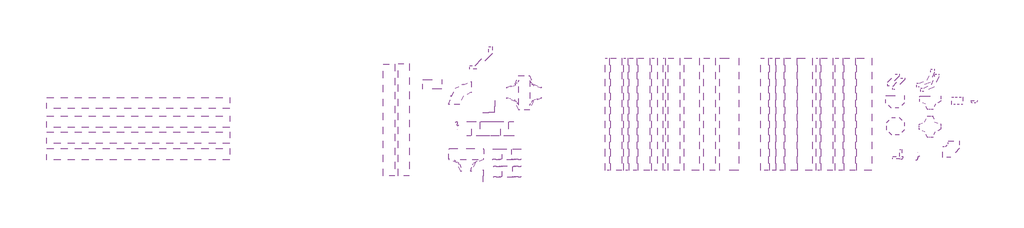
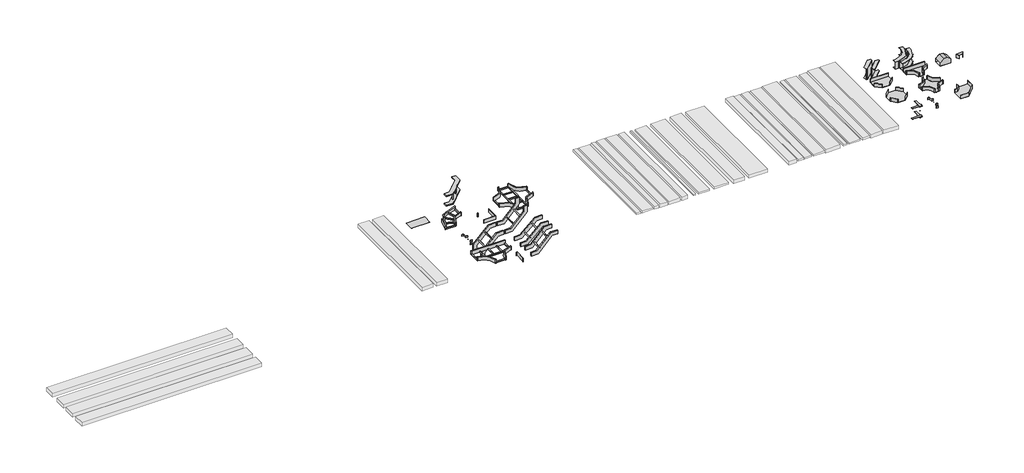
# One storey: 33 cable carrier fittings, 27 cable carrier segments.
"""IFC4 building model written with IfcOpenShell, lengths in millimetres."""

from ifc_helpers import new_model, si_unit, frame, origin, place, context, project, spatial, polyline, outline, extrude, transform, mapped, element, save
from components import r300_sz_0848be47, r300_sz_aaf5c616, r300_sz_23be3219, sz_9244dd85, sz_ec6d16ca, sz_e15724c8, sz_65a5ffdf, sz_d73c2f54, sz_04c1168c, sz_c7358d7a, sz_7c2b690c, sz_991a64d1, sz_2e9c0341, sz_de6e191f, sz_1be927fd, sz_bbab0c20, sz_2abae99f, sz_76e921f6, sz_96013533, sz_b1535532, sz_65b4f98e, sz_a71fa306, sz_ec360602, sz_a67ddfbb, sz_49492b6d, sz_73ba9979

model = new_model("IFC4")

# Units and contexts
model_context = context("Model", 3, world=origin())
ifc_project = project(units=[si_unit("LENGTHUNIT", "METRE", prefix="MILLI")], contexts=[model_context])

# Site, building, storey
site = spatial("IfcSite", under=ifc_project)
building = spatial("IfcBuilding", under=site)
storey = spatial("IfcBuildingStorey", under=building, Name="Этаж 01", Elevation=0.0)

# Cable carrier fittings
placement = place(None, origin())
r300_sz_shape = r300_sz_0848be47(model_context)
element("IfcCableCarrierFitting", 1, ObjectType="IEK_Лестничный_Поворот : R300_SZ", at=placement, inside=storey, context=model_context, shape_type="MappedRepresentation", body=[
    mapped(r300_sz_shape, transform((-4142.1974601, 2706.3520257, 3000.0), x_axis=(-1.0, 0.0, 0.0), y_axis=(0.0, -1.0, 0.0), z_axis=(0.0, 0.0, 1.0))),
])
r300_sz_2_shape = r300_sz_aaf5c616(model_context)
element("IfcCableCarrierFitting", 2, ObjectType="IEK_Лестничный_Крестовина : R300_SZ", at=placement, inside=storey, context=model_context, shape_type="MappedRepresentation", body=[
    mapped(r300_sz_2_shape, transform((-2269.1668232, 2558.303797, 3000.0), x_axis=(0.0, -1.0, 0.0), y_axis=(1.0, 0.0, 0.0), z_axis=(0.0, 0.0, 1.0))),
])
r300_sz_3_shape = r300_sz_23be3219(model_context)
element("IfcCableCarrierFitting", 3, ObjectType="IEK_Лестничный_Разветвитель Т-обр : R300_SZ", at=placement, inside=storey, context=model_context, shape_type="MappedRepresentation", body=[
    mapped(r300_sz_3_shape, transform((-3819.8459974, 911.1303241, 3000.0), x_axis=(1.0, 0.0, 0.0), y_axis=(0.0, 1.0, 0.0), z_axis=(0.0, 0.0, 1.0))),
])
sz_shape = sz_9244dd85(model_context)
element("IfcCableCarrierFitting", 4, ObjectType="IEK_Листовой_Поворот вертик наруж : SZ", at=placement, inside=storey, context=model_context, shape_type="MappedRepresentation", body=[
    mapped(sz_shape, transform((7861.5572148, 2690.1447929, 3000.0), x_axis=(1.0, 0.0, 0.0), y_axis=(0.0, 1.0, 0.0), z_axis=(0.0, 0.0, 1.0))),
])
sz_2_shape = sz_ec6d16ca(model_context)
element("IfcCableCarrierFitting", 5, ObjectType="IEK_Листовой_Поворот плавный вертик внутр : SZ", at=placement, inside=storey, context=model_context, shape_type="MappedRepresentation", body=[
    mapped(sz_2_shape, transform((8659.7054682, 2762.5588337, 3000.0), x_axis=(1.0, 0.0, 0.0), y_axis=(0.0, 1.0, 0.0), z_axis=(0.0, 0.0, 1.0))),
])
sz_3_shape = sz_e15724c8(model_context)
element("IfcCableCarrierFitting", 6, ObjectType="IEK_Листовой_Поворот плавный вертик наруж : SZ", at=placement, inside=storey, context=model_context, shape_type="MappedRepresentation", body=[
    mapped(sz_3_shape, transform((8771.9458158, 2639.2057526, 3000.0), x_axis=(1.0, 0.0, 0.0), y_axis=(0.0, 1.0, 0.0), z_axis=(0.0, 0.0, 1.0))),
])
sz_4_shape = sz_65a5ffdf(model_context)
element("IfcCableCarrierFitting", 7, ObjectType="IEK_Листовой_Крестовина : SZ", at=placement, inside=storey, context=model_context, shape_type="MappedRepresentation", body=[
    mapped(sz_4_shape, transform((7668.0828173, 1659.6644888, 3000.0), x_axis=(1.0, 0.0, 0.0), y_axis=(0.0, 1.0, 0.0), z_axis=(0.0, 0.0, 1.0))),
])
sz_5_shape = sz_d73c2f54(model_context)
element("IfcCableCarrierFitting", 8, ObjectType="IEK_Листовой_Крестовина плавная : SZ", at=placement, inside=storey, context=model_context, shape_type="MappedRepresentation", body=[
    mapped(sz_5_shape, transform((8591.1179231, 1642.8294687, 3000.0), x_axis=(1.0, 0.0, 0.0), y_axis=(0.0, 1.0, 0.0), z_axis=(0.0, 0.0, 1.0))),
])
sz_6_shape = sz_04c1168c(model_context)
element("IfcCableCarrierFitting", 9, ObjectType="IEK_Листовой_Отвод Т-обр : SZ", at=placement, inside=storey, context=model_context, shape_type="MappedRepresentation", body=[
    mapped(sz_6_shape, transform((9771.9242096, 2400.0627874, 3000.0), x_axis=(1.0, 0.0, 0.0), y_axis=(0.0, 1.0, 0.0), z_axis=(0.0, 0.0, 1.0))),
])
sz_7_shape = sz_c7358d7a(model_context)
element("IfcCableCarrierFitting", 10, ObjectType="IEK_Листовой_Разветвитель Т-обр : SZ", at=placement, inside=storey, context=model_context, shape_type="MappedRepresentation", body=[
    mapped(sz_7_shape, transform((7658.5414114, 2380.6262282, 3000.0), x_axis=(1.0, 0.0, 0.0), y_axis=(0.0, 1.0, 0.0), z_axis=(0.0, 0.0, 1.0))),
])
sz_8_shape = sz_7c2b690c(model_context)
element("IfcCableCarrierFitting", 11, ObjectType="IEK_Листовой_Разветвитель Т-обр плавный : SZ", at=placement, inside=storey, context=model_context, shape_type="MappedRepresentation", body=[
    mapped(sz_8_shape, transform((8596.6005413, 2392.6655468, 3000.0), x_axis=(1.0, 0.0, 0.0), y_axis=(0.0, 1.0, 0.0), z_axis=(0.0, 0.0, 1.0))),
])
sz_9_shape = sz_991a64d1(model_context)
element("IfcCableCarrierFitting", 12, ObjectType="IEK_Листовой_Поворот вертик внутр : SZ", at=placement, inside=storey, context=model_context, shape_type="MappedRepresentation", body=[
    mapped(sz_9_shape, transform((7716.5285569, 2792.4110519, 3000.0), x_axis=(1.0, 0.0, 0.0), y_axis=(0.0, 1.0, 0.0), z_axis=(0.0, 0.0, 1.0))),
])
sz_10_shape = sz_2e9c0341(model_context)
element("IfcCableCarrierFitting", 13, ObjectType="IEK_Лестничный_Вставка донная : SZ", at=placement, inside=storey, context=model_context, shape_type="MappedRepresentation", body=[
    mapped(sz_10_shape, transform((-4979.665342, 2786.0677266, 3000.0), x_axis=(1.0, 0.0, 0.0), y_axis=(0.0, 1.0, 0.0), z_axis=(0.0, 0.0, 1.0))),
])
sz_11_shape = sz_de6e191f(model_context)
element("IfcCableCarrierFitting", 14, ObjectType="IEK_Лестничный_Поворот шарнирный вертик внешн : SZ", at=placement, inside=storey, context=model_context, shape_type="MappedRepresentation", body=[
    mapped(sz_11_shape, transform((-3761.6351111, 1592.4969429, 3000.0), x_axis=(0.0, 0.0, 1.0), y_axis=(1.0, 0.0, 0.0), z_axis=(0.0, 1.0, 0.0))),
])
sz_12_shape = sz_1be927fd(model_context)
element("IfcCableCarrierFitting", 15, ObjectType="IEK_Лестничный_Поворот шарнирный вертик внутр : SZ", at=placement, inside=storey, context=model_context, shape_type="MappedRepresentation", body=[
    mapped(sz_12_shape, transform((-2601.6351111, 1592.4969429, 3000.0), x_axis=(1.0, 0.0, 0.0), y_axis=(0.0, 0.0, 1.0), z_axis=(0.0, -1.0, 0.0))),
])
sz_13_shape = sz_bbab0c20(model_context)
element("IfcCableCarrierFitting", 16, ObjectType="IEK_Листовой_Разветвитель Т-обр вверх : SZ", at=placement, inside=storey, context=model_context, shape_type="MappedRepresentation", body=[
    mapped(sz_13_shape, transform((9326.8033831, 2337.5755409, 3000.0), x_axis=(1.0, 0.0, 0.0), y_axis=(0.0, 1.0, 0.0), z_axis=(0.0, 0.0, 1.0))),
])
sz_14_shape = sz_2abae99f(model_context)
element("IfcCableCarrierFitting", 17, ObjectType="IEK_Лестничный_Поворот шарнирный вертик : SZ", at=placement, inside=storey, context=model_context, shape_type="MappedRepresentation", body=[
    mapped(sz_14_shape, transform((-3169.0486686, 3240.4012082, 3000.0), x_axis=(1.0, 0.0, 0.0), y_axis=(0.0, 1.0, 0.0), z_axis=(0.0, 0.0, 1.0))),
])
sz_15_shape = sz_76e921f6(model_context)
element("IfcCableCarrierFitting", 18, ObjectType="IEK_Лестничный_Поворот шарнирный : SZ", at=placement, inside=storey, context=model_context, shape_type="MappedRepresentation", body=[
    mapped(sz_15_shape, transform((-2933.8383396, 905.8059734, 3000.0), x_axis=(1.0, 0.0, 0.0), y_axis=(0.0, 1.0, 0.0), z_axis=(0.0, 0.0, 1.0))),
])
sz_16_shape = sz_96013533(model_context)
element("IfcCableCarrierFitting", 19, ObjectType="IEK_Лестничный_Поворот шарнирный_(угол) : SZ", at=placement, inside=storey, context=model_context, shape_type="MappedRepresentation", body=[
    mapped(sz_16_shape, transform((-2916.5199929, 443.9833958, 3000.0), x_axis=(1.0, 0.0, 0.0), y_axis=(0.0, 1.0, 0.0), z_axis=(0.0, 0.0, 1.0))),
])
sz_17_shape = sz_b1535532(model_context)
element("IfcCableCarrierFitting", 20, ObjectType="IEK_Лестничный_Заглушка : SZ", at=placement, inside=storey, context=model_context, shape_type="MappedRepresentation", body=[
    mapped(sz_17_shape, transform((-3360.039022, 332.893144, 3000.0), x_axis=(1.0, 0.0, 0.0), y_axis=(0.0, 1.0, 0.0), z_axis=(0.0, 0.0, 1.0))),
])
sz_18_shape = sz_65b4f98e(model_context)
element("IfcCableCarrierFitting", 21, ObjectType="⚠_IEK_Лестничный_Редукция : SZ", at=placement, inside=storey, context=model_context, shape_type="MappedRepresentation", body=[
    mapped(sz_18_shape, transform((-4065.0528235, 1574.5225947, 3000.0), x_axis=(0.0, 1.0, 0.0), y_axis=(-1.0, 0.0, 0.0), z_axis=(0.0, 0.0, 1.0))),
])
element("IfcCableCarrierFitting", 22, ObjectType="⚠_IEK_Лестничный_Редукция : SZ", at=placement, inside=storey, context=model_context, shape_type="MappedRepresentation", body=[
    mapped(sz_18_shape, transform((-4065.0528235, 1573.3225947, 3000.0), x_axis=(0.0, 1.0, 0.0), y_axis=(-1.0, 0.0, 0.0), z_axis=(0.0, 0.0, 1.0))),
])
sz_19_shape = sz_a71fa306(model_context)
element("IfcCableCarrierFitting", 23, ObjectType="IEK_Лестничный_Переход по ширине : SZ", at=placement, inside=storey, context=model_context, shape_type="MappedRepresentation", body=[
    mapped(sz_19_shape, transform((-4065.2528235, 1575.1364842, 3000.0), x_axis=(1.0, 0.0, 0.0), y_axis=(0.0, 1.0, 0.0), z_axis=(0.0, 0.0, 1.0))),
])
sz_20_shape = sz_ec360602(model_context)
element("IfcCableCarrierFitting", 24, ObjectType="IEK_Лестничный_Регулируемый поворот : SZ", at=placement, inside=storey, context=model_context, shape_type="MappedRepresentation", body=[
    mapped(sz_20_shape, transform((-3206.5108306, 2175.3572031, 3000.0), x_axis=(1.0, 0.0, 0.0), y_axis=(0.0, 1.0, 0.0), z_axis=(0.0, 0.0, 1.0))),
])
element("IfcCableCarrierFitting", 25, ObjectType="⚠_IEK_Листовой_Редукция : SZ", at=placement, inside=storey, context=model_context, shape_type="MappedRepresentation", body=[
    mapped(sz_18_shape, transform((8266.3686057, 953.2180441, 3000.0), x_axis=(0.0, 1.0, 0.0), y_axis=(-1.0, 0.0, 0.0), z_axis=(0.0, 0.0, 1.0))),
])
element("IfcCableCarrierFitting", 26, ObjectType="⚠_IEK_Листовой_Редукция : SZ", at=placement, inside=storey, context=model_context, shape_type="MappedRepresentation", body=[
    mapped(sz_18_shape, transform((8266.3686057, 952.0180441, 3000.0), x_axis=(0.0, 1.0, 0.0), y_axis=(-1.0, 0.0, 0.0), z_axis=(0.0, 0.0, 1.0))),
])
element("IfcCableCarrierFitting", 27, ObjectType="IEK_Листовой_Переход по ширине : SZ", at=placement, inside=storey, context=model_context, shape_type="MappedRepresentation", body=[
    mapped(sz_19_shape, transform((8266.1686057, 953.8319336, 3000.0), x_axis=(1.0, 0.0, 0.0), y_axis=(0.0, 1.0, 0.0), z_axis=(0.0, 0.0, 1.0))),
])
sz_21_shape = sz_a67ddfbb(model_context)
element("IfcCableCarrierFitting", 28, ObjectType="⚠_IEK_Листовой_Пластина шарнирная : SZ", at=placement, inside=storey, context=model_context, shape_type="MappedRepresentation", body=[
    mapped(sz_21_shape, transform((7809.820164, 815.5899531, 3000.0), x_axis=(1.0, 0.0, 0.0), y_axis=(0.0, 1.0, 0.0), z_axis=(0.0, 0.0, 1.0))),
])
element("IfcCableCarrierFitting", 29, ObjectType="⚠_IEK_Листовой_Пластина шарнирная : SZ", at=placement, inside=storey, context=model_context, shape_type="MappedRepresentation", body=[
    mapped(sz_21_shape, transform((7811.820164, 815.5899531, 3000.0), x_axis=(1.0, 0.0, 0.0), y_axis=(0.0, 1.0, 0.0), z_axis=(0.0, 0.0, 1.0))),
])
element("IfcCableCarrierFitting", 30, ObjectType="⚠_IEK_Листовой_Пластина шарнирная : SZ", at=placement, inside=storey, context=model_context, shape_type="MappedRepresentation", body=[
    mapped(sz_21_shape, transform((7807.820164, 815.5899531, 3000.0), x_axis=(1.0, 0.0, 0.0), y_axis=(0.0, 1.0, 0.0), z_axis=(0.0, 0.0, 1.0))),
])
element("IfcCableCarrierFitting", 31, ObjectType="⚠_IEK_Листовой_Пластина шарнирная : SZ", at=placement, inside=storey, context=model_context, shape_type="MappedRepresentation", body=[
    mapped(sz_21_shape, transform((7809.820164, 816.3971376, 3000.0), x_axis=(1.0, 0.0, 0.0), y_axis=(0.0, 1.0, 0.0), z_axis=(0.0, 0.0, 1.0))),
])
sz_22_shape = sz_49492b6d(model_context)
element("IfcCableCarrierFitting", 32, ObjectType="IEK_Листовой_Поворот шарнирный верт : SZ", at=placement, inside=storey, context=model_context, shape_type="MappedRepresentation", body=[
    mapped(sz_22_shape, transform((7809.820164, 815.5899531, 3000.0), x_axis=(1.0, 0.0, 0.0), y_axis=(0.0, 1.0, 0.0), z_axis=(0.0, 0.0, 1.0))),
])
sz_23_shape = sz_73ba9979(model_context)
element("IfcCableCarrierFitting", 33, ObjectType="IEK_Листовой_Поворот : SZ", at=placement, inside=storey, context=model_context, shape_type="MappedRepresentation", body=[
    mapped(sz_23_shape, transform((9231.0808011, 970.187719, 3000.0), x_axis=(1.0, 0.0, 0.0), y_axis=(0.0, 1.0, 0.0), z_axis=(0.0, 0.0, 1.0))),
])

# Cable carrier segments
element("IfcCableCarrierSegment", 34, ObjectType="IEK_Листовой_перфорированный_L3000_t1.0_HDZ", at=placement, inside=storey, context=model_context, shape_type="SweptSolid", body=[
    extrude(outline(polyline([(4476.996274, 3481.4671537), (4676.996274, 3481.4671537), (4676.996274, 481.4671537), (4476.996274, 481.4671537), (4476.996274, 3481.4671537)])), frame((0.0, 0.0, 2975.0), z_axis=(0.0, 0.0, 1.0), x_axis=(1.0, 0.0, 0.0)), (0.0, 0.0, 1.0), 50.0),
])
element("IfcCableCarrierSegment", 35, ObjectType="IEK_Листовой_перфорированный_L3000_t0.7_SZ", at=placement, inside=storey, context=model_context, shape_type="SweptSolid", body=[
    extrude(outline(polyline([(5543.9820122, 3481.4671537), (5643.9820122, 3481.4671537), (5643.9820122, 481.4671537), (5543.9820122, 481.4671537), (5543.9820122, 3481.4671537)])), frame((0.0, 0.0, 2982.5), z_axis=(0.0, 0.0, 1.0), x_axis=(1.0, 0.0, 0.0)), (0.0, 0.0, 1.0), 35.0),
])
element("IfcCableCarrierSegment", 36, ObjectType="IEK_Лестничный_L3000_t1.0_SZ", at=placement, inside=storey, context=model_context, shape_type="SweptSolid", body=[
    extrude(outline(polyline([(-5639.695703, 3332.893144), (-5339.695703, 3332.893144), (-5339.695703, 332.893144), (-5639.695703, 332.893144), (-5639.695703, 3332.893144)])), frame((0.0, 0.0, 2950.0), z_axis=(0.0, 0.0, 1.0), x_axis=(1.0, 0.0, 0.0)), (0.0, 0.0, 1.0), 100.0),
])
element("IfcCableCarrierSegment", 37, ObjectType="IEK_Листовой_неперфорированный_L3000_t0.7_HDZ", at=placement, inside=storey, context=model_context, shape_type="SweptSolid", body=[
    extrude(outline(polyline([(-92.3201055, 3481.4671537), (7.6798945, 3481.4671537), (7.6798945, 481.4671537), (-92.3201055, 481.4671537), (-92.3201055, 3481.4671537)])), frame((0.0, 0.0, 2975.0), z_axis=(0.0, 0.0, 1.0), x_axis=(1.0, 0.0, 0.0)), (0.0, 0.0, 1.0), 50.0),
])
element("IfcCableCarrierSegment", 38, ObjectType="IEK_Листовой_неперфорированный_L3000_t0.7_SZ", at=placement, inside=storey, context=model_context, shape_type="SweptSolid", body=[
    extrude(outline(polyline([(1453.0784551, 3481.4671537), (1503.0784551, 3481.4671537), (1503.0784551, 481.4671537), (1453.0784551, 481.4671537), (1453.0784551, 3481.4671537)])), frame((0.0, 0.0, 2982.5), z_axis=(0.0, 0.0, 1.0), x_axis=(1.0, 0.0, 0.0)), (0.0, 0.0, 1.0), 35.0),
])
element("IfcCableCarrierSegment", 39, ObjectType="IEK_Лестничный_L3000_t1.0_HDZ", at=placement, inside=storey, context=model_context, shape_type="SweptSolid", body=[
    extrude(outline(polyline([(-6034.7786821, 3331.4671537), (-5734.7786821, 3331.4671537), (-5734.7786821, 332.893144), (-6034.7786821, 332.893144), (-6034.7786821, 3331.4671537)])), frame((0.0, 0.0, 2950.0), z_axis=(0.0, 0.0, 1.0), x_axis=(1.0, 0.0, 0.0)), (0.0, 0.0, 1.0), 100.0),
])
element("IfcCableCarrierSegment", 40, ObjectType="IEK_Листовой_неперфорированный_L3000_t0.8_SZ", at=placement, inside=storey, context=model_context, shape_type="SweptSolid", body=[
    extrude(outline(polyline([(1588.4770157, 3481.4671537), (1888.4770157, 3481.4671537), (1888.4770157, 481.4671537), (1588.4770157, 481.4671537), (1588.4770157, 3481.4671537)])), frame((0.0, 0.0, 2975.0), z_axis=(0.0, 0.0, 1.0), x_axis=(1.0, 0.0, 0.0)), (0.0, 0.0, 1.0), 50.0),
])
element("IfcCableCarrierSegment", 41, ObjectType="IEK_Листовой_неперфорированный_L3000_t1.0_SZ", at=placement, inside=storey, context=model_context, shape_type="SweptSolid", body=[
    extrude(outline(polyline([(2013.4770157, 3481.4671537), (2413.4770157, 3481.4671537), (2413.4770157, 481.4671537), (2013.4770157, 481.4671537), (2013.4770157, 3481.4671537)])), frame((0.0, 0.0, 2975.0), z_axis=(0.0, 0.0, 1.0), x_axis=(1.0, 0.0, 0.0)), (0.0, 0.0, 1.0), 50.0),
])
element("IfcCableCarrierSegment", 42, ObjectType="IEK_Листовой_неперфорированный_L3000_t1.2_SZ", at=placement, inside=storey, context=model_context, shape_type="SweptSolid", body=[
    extrude(outline(polyline([(2971.3234346, 3481.4671537), (3471.3234346, 3481.4671537), (3471.3234346, 481.4671537), (2971.3234346, 481.4671537), (2971.3234346, 3481.4671537)])), frame((0.0, 0.0, 2960.0), z_axis=(0.0, 0.0, 1.0), x_axis=(1.0, 0.0, 0.0)), (0.0, 0.0, 1.0), 80.0),
])
element("IfcCableCarrierSegment", 43, ObjectType="IEK_Листовой_неперфорированный_L3000_t1.0_SZ", at=placement, inside=storey, context=model_context, shape_type="SweptSolid", body=[
    extrude(outline(polyline([(2543.4770157, 3481.4671537), (2843.4770157, 3481.4671537), (2843.4770157, 481.4671537), (2543.4770157, 481.4671537), (2543.4770157, 3481.4671537)])), frame((0.0, 0.0, 2950.0), z_axis=(0.0, 0.0, 1.0), x_axis=(1.0, 0.0, 0.0)), (0.0, 0.0, 1.0), 100.0),
])
element("IfcCableCarrierSegment", 44, ObjectType="IEK_Листовой_перфорированный_L3000_t0.8_SZ", at=placement, inside=storey, context=model_context, shape_type="SweptSolid", body=[
    extrude(outline(polyline([(5685.9677505, 3481.4671537), (5985.9677505, 3481.4671537), (5985.9677505, 481.4671537), (5685.9677505, 481.4671537), (5685.9677505, 3481.4671537)])), frame((0.0, 0.0, 2982.5), z_axis=(0.0, 0.0, 1.0), x_axis=(1.0, 0.0, 0.0)), (0.0, 0.0, 1.0), 35.0),
])
element("IfcCableCarrierSegment", 45, ObjectType="IEK_Листовой_перфорированный_L3000_t1.0_SZ", at=placement, inside=storey, context=model_context, shape_type="SweptSolid", body=[
    extrude(outline(polyline([(6055.9677505, 3481.4671537), (6255.9677505, 3481.4671537), (6255.9677505, 481.4671537), (6055.9677505, 481.4671537), (6055.9677505, 3481.4671537)])), frame((0.0, 0.0, 2975.0), z_axis=(0.0, 0.0, 1.0), x_axis=(1.0, 0.0, 0.0)), (0.0, 0.0, 1.0), 50.0),
])
element("IfcCableCarrierSegment", 46, ObjectType="IEK_Листовой_перфорированный_L3000_t1.2_SZ", at=placement, inside=storey, context=model_context, shape_type="SweptSolid", body=[
    extrude(outline(polyline([(6635.9677505, 3481.4671537), (7035.9677505, 3481.4671537), (7035.9677505, 481.4671537), (6635.9677505, 481.4671537), (6635.9677505, 3481.4671537)])), frame((0.0, 0.0, 2950.0), z_axis=(0.0, 0.0, 1.0), x_axis=(1.0, 0.0, 0.0)), (0.0, 0.0, 1.0), 100.0),
])
element("IfcCableCarrierSegment", 47, ObjectType="IEK_Листовой_перфорированный_L3000_t1.0_SZ", at=placement, inside=storey, context=model_context, shape_type="SweptSolid", body=[
    extrude(outline(polyline([(6295.9677505, 3481.4671537), (6595.9677505, 3481.4671537), (6595.9677505, 481.4671537), (6295.9677505, 481.4671537), (6295.9677505, 3481.4671537)])), frame((0.0, 0.0, 2950.0), z_axis=(0.0, 0.0, 1.0), x_axis=(1.0, 0.0, 0.0)), (0.0, 0.0, 1.0), 100.0),
])
element("IfcCableCarrierSegment", 48, ObjectType="IEK_Листовой_перфорированный_L3000_t0.7_HDZ", at=placement, inside=storey, context=model_context, shape_type="SweptSolid", body=[
    extrude(outline(polyline([(4296.996274, 3481.4671537), (4446.996274, 3481.4671537), (4446.996274, 481.4671537), (4296.996274, 481.4671537), (4296.996274, 3481.4671537)])), frame((0.0, 0.0, 2975.0), z_axis=(0.0, 0.0, 1.0), x_axis=(1.0, 0.0, 0.0)), (0.0, 0.0, 1.0), 50.0),
])
element("IfcCableCarrierSegment", 49, ObjectType="IEK_Листовой_перфорированный_L3000_t1.0_HDZ", at=placement, inside=storey, context=model_context, shape_type="SweptSolid", body=[
    extrude(outline(polyline([(4721.996274, 3481.4671537), (5021.996274, 3481.4671537), (5021.996274, 481.4671537), (4721.996274, 481.4671537), (4721.996274, 3481.4671537)])), frame((0.0, 0.0, 2975.0), z_axis=(0.0, 0.0, 1.0), x_axis=(1.0, 0.0, 0.0)), (0.0, 0.0, 1.0), 50.0),
])
element("IfcCableCarrierSegment", 50, ObjectType="IEK_Листовой_перфорированный_L3000_t1.2_HDZ", at=placement, inside=storey, context=model_context, shape_type="SweptSolid", body=[
    extrude(outline(polyline([(5046.996274, 3481.4671537), (5446.996274, 3481.4671537), (5446.996274, 481.4671537), (5046.996274, 481.4671537), (5046.996274, 3481.4671537)])), frame((0.0, 0.0, 2950.0), z_axis=(0.0, 0.0, 1.0), x_axis=(1.0, 0.0, 0.0)), (0.0, 0.0, 1.0), 100.0),
])
element("IfcCableCarrierSegment", 51, ObjectType="IEK_Листовой_неперфорированный_L3000_t0.8_HDZ", at=placement, inside=storey, context=model_context, shape_type="SweptSolid", body=[
    extrude(outline(polyline([(47.6798945, 3481.4671537), (347.6798945, 3481.4671537), (347.6798945, 481.4671537), (47.6798945, 481.4671537), (47.6798945, 3481.4671537)])), frame((0.0, 0.0, 2975.0), z_axis=(0.0, 0.0, 1.0), x_axis=(1.0, 0.0, 0.0)), (0.0, 0.0, 1.0), 50.0),
])
element("IfcCableCarrierSegment", 52, ObjectType="IEK_Листовой_неперфорированный_L3000_t1.0_HDZ", at=placement, inside=storey, context=model_context, shape_type="SweptSolid", body=[
    extrude(outline(polyline([(397.6798945, 3481.4671537), (497.6798945, 3481.4671537), (497.6798945, 481.4671537), (397.6798945, 481.4671537), (397.6798945, 3481.4671537)])), frame((0.0, 0.0, 2960.0), z_axis=(0.0, 0.0, 1.0), x_axis=(1.0, 0.0, 0.0)), (0.0, 0.0, 1.0), 80.0),
])
element("IfcCableCarrierSegment", 53, ObjectType="IEK_Листовой_неперфорированный_L3000_t1.0_HDZ", at=placement, inside=storey, context=model_context, shape_type="SweptSolid", body=[
    extrude(outline(polyline([(547.6798945, 3481.4671537), (747.6798945, 3481.4671537), (747.6798945, 481.4671537), (547.6798945, 481.4671537), (547.6798945, 3481.4671537)])), frame((0.0, 0.0, 2950.0), z_axis=(0.0, 0.0, 1.0), x_axis=(1.0, 0.0, 0.0)), (0.0, 0.0, 1.0), 100.0),
])
element("IfcCableCarrierSegment", 54, ObjectType="IEK_Листовой_неперфорированный_L3000_t1.2_HDZ", at=placement, inside=storey, context=model_context, shape_type="SweptSolid", body=[
    extrude(outline(polyline([(787.6798945, 3481.4671537), (1087.6798945, 3481.4671537), (1087.6798945, 481.4671537), (787.6798945, 481.4671537), (787.6798945, 3481.4671537)])), frame((0.0, 0.0, 2950.0), z_axis=(0.0, 0.0, 1.0), x_axis=(1.0, 0.0, 0.0)), (0.0, 0.0, 1.0), 100.0),
])
element("IfcCableCarrierSegment", 55, ObjectType="IEK_Листовой_неперфорированный_L3000_t1.5_HDZ", at=placement, inside=storey, context=model_context, shape_type="SweptSolid", body=[
    extrude(outline(polyline([(1142.6798945, 3481.4671537), (1292.6798945, 3481.4671537), (1292.6798945, 481.4671537), (1142.6798945, 481.4671537), (1142.6798945, 3481.4671537)])), frame((0.0, 0.0, 2950.0), z_axis=(0.0, 0.0, 1.0), x_axis=(1.0, 0.0, 0.0)), (0.0, 0.0, 1.0), 100.0),
])
element("IfcCableCarrierSegment", 56, ObjectType="IEK_Листовой_перфорированный_L3000_t0.8_HDZ", at=placement, inside=storey, context=model_context, shape_type="SweptSolid", body=[
    extrude(outline(polyline([(4061.996274, 3481.4671537), (4261.996274, 3481.4671537), (4261.996274, 481.4671537), (4061.996274, 481.4671537), (4061.996274, 3481.4671537)])), frame((0.0, 0.0, 2950.0), z_axis=(0.0, 0.0, 1.0), x_axis=(1.0, 0.0, 0.0)), (0.0, 0.0, 1.0), 100.0),
])
element("IfcCableCarrierSegment", 57, ObjectType="ADSK_Перфорированный кабельный лоток", at=placement, inside=storey, context=model_context, shape_type="SweptSolid", body=[
    extrude(outline(polyline([(-15051.6568502, 2135.7740056), (-15051.6568502, 2435.7740056), (-10151.6568502, 2435.7740056), (-10151.6568502, 2135.7740056), (-15051.6568502, 2135.7740056)])), frame((0.0, 0.0, 1950.0), z_axis=(0.0, 0.0, 1.0), x_axis=(1.0, 0.0, 0.0)), (0.0, 0.0, 1.0), 100.0),
])
element("IfcCableCarrierSegment", 58, ObjectType="ADSK_Неперфорированный кабельный лоток", at=placement, inside=storey, context=model_context, shape_type="SweptSolid", body=[
    extrude(outline(polyline([(-15051.6568502, 1631.118022), (-15051.6568502, 1931.118022), (-10151.6568502, 1931.118022), (-10151.6568502, 1631.118022), (-15051.6568502, 1631.118022)])), frame((0.0, 0.0, 1950.0), z_axis=(0.0, 0.0, 1.0), x_axis=(1.0, 0.0, 0.0)), (0.0, 0.0, 1.0), 100.0),
])
element("IfcCableCarrierSegment", 59, ObjectType="ADSK_Лестничный кабельный лоток", at=placement, inside=storey, context=model_context, shape_type="SweptSolid", body=[
    extrude(outline(polyline([(-15051.6568502, 1199.4931639), (-15051.6568502, 1499.4931639), (-10151.6568502, 1499.4931639), (-10151.6568502, 1199.4931639), (-15051.6568502, 1199.4931639)])), frame((0.0, 0.0, 1950.0), z_axis=(0.0, 0.0, 1.0), x_axis=(1.0, 0.0, 0.0)), (0.0, 0.0, 1.0), 100.0),
])
element("IfcCableCarrierSegment", 60, ObjectType="ADSK_Проволочный кабельный лоток", at=placement, inside=storey, context=model_context, shape_type="SweptSolid", body=[
    extrude(outline(polyline([(-15051.6568502, 759.4248531), (-15051.6568502, 1059.4248531), (-10151.6568502, 1059.4248531), (-10151.6568502, 759.4248531), (-15051.6568502, 759.4248531)])), frame((0.0, 0.0, 1950.0), z_axis=(0.0, 0.0, 1.0), x_axis=(1.0, 0.0, 0.0)), (0.0, 0.0, 1.0), 100.0),
])

save(model, "model.ifc")
